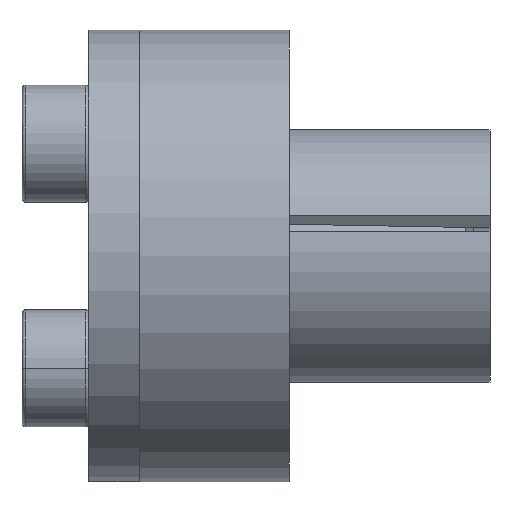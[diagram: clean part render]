
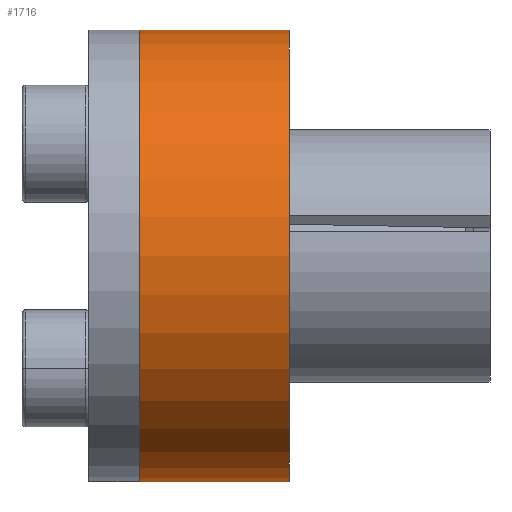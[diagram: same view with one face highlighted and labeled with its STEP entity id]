
A CAD part, front view. The second image highlights one B-rep face of the part: STEP entity #1716.
In plain terms, the highlighted cylindrical face has radius 13.5 mm (diameter 27 mm), a partial arc.
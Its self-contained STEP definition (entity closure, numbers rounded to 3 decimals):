
#387 = DIRECTION ( 'NONE',  ( -1., 0., 0. ) ) ;
#389 = VECTOR ( 'NONE', #3749, 1000. ) ;
#424 = EDGE_CURVE ( 'NONE', #3860, #1566, #490, .T. ) ;
#490 = LINE ( 'NONE', #2184, #389 ) ;
#496 = DIRECTION ( 'NONE',  ( 0., 0., 1. ) ) ;
#551 = DIRECTION ( 'NONE',  ( -1., 0., 0. ) ) ;
#563 = ORIENTED_EDGE ( 'NONE', *, *, #2584, .F. ) ;
#617 = DIRECTION ( 'NONE',  ( -1., 0., 0. ) ) ;
#947 = ORIENTED_EDGE ( 'NONE', *, *, #424, .T. ) ;
#1566 = VERTEX_POINT ( 'NONE', #2976 ) ;
#1716 = ADVANCED_FACE ( 'NONE', ( #2012 ), #1898, .T. ) ;
#1898 = CYLINDRICAL_SURFACE ( 'NONE', #3057, 13.5 ) ;
#1923 = DIRECTION ( 'NONE',  ( 0., 0., 1. ) ) ;
#2012 = FACE_OUTER_BOUND ( 'NONE', #2319, .T. ) ;
#2029 = CARTESIAN_POINT ( 'NONE',  ( 0.803, 0., 13.5 ) ) ;
#2156 = CARTESIAN_POINT ( 'NONE',  ( -8.178, 0., -13.5 ) ) ;
#2164 = EDGE_CURVE ( 'NONE', #2372, #3860, #3728, .T. ) ;
#2184 = CARTESIAN_POINT ( 'NONE',  ( -13.878, 0., 13.5 ) ) ;
#2319 = EDGE_LOOP ( 'NONE', ( #4045, #2989, #947, #563 ) ) ;
#2364 = AXIS2_PLACEMENT_3D ( 'NONE', #4041, #387, #1923 ) ;
#2372 = VERTEX_POINT ( 'NONE', #3189 ) ;
#2497 = DIRECTION ( 'NONE',  ( 0., 0., 1. ) ) ;
#2584 = EDGE_CURVE ( 'NONE', #3056, #1566, #3935, .T. ) ;
#2588 = EDGE_CURVE ( 'NONE', #2372, #3056, #3305, .T. ) ;
#2785 = CARTESIAN_POINT ( 'NONE',  ( -13.878, 0., 0. ) ) ;
#2893 = CARTESIAN_POINT ( 'NONE',  ( 0.803, 0., 0. ) ) ;
#2931 = AXIS2_PLACEMENT_3D ( 'NONE', #2893, #617, #2497 ) ;
#2976 = CARTESIAN_POINT ( 'NONE',  ( -8.178, 0., 13.5 ) ) ;
#2989 = ORIENTED_EDGE ( 'NONE', *, *, #2164, .T. ) ;
#3056 = VERTEX_POINT ( 'NONE', #2156 ) ;
#3057 = AXIS2_PLACEMENT_3D ( 'NONE', #2785, #551, #496 ) ;
#3125 = CARTESIAN_POINT ( 'NONE',  ( -13.878, 0., -13.5 ) ) ;
#3189 = CARTESIAN_POINT ( 'NONE',  ( 0.803, 0., -13.5 ) ) ;
#3305 = LINE ( 'NONE', #3125, #4031 ) ;
#3423 = DIRECTION ( 'NONE',  ( -1., 0., 0. ) ) ;
#3728 = CIRCLE ( 'NONE', #2931, 13.5 ) ;
#3749 = DIRECTION ( 'NONE',  ( -1., 0., 0. ) ) ;
#3860 = VERTEX_POINT ( 'NONE', #2029 ) ;
#3935 = CIRCLE ( 'NONE', #2364, 13.5 ) ;
#4031 = VECTOR ( 'NONE', #3423, 1000. ) ;
#4041 = CARTESIAN_POINT ( 'NONE',  ( -8.178, 0., 0. ) ) ;
#4045 = ORIENTED_EDGE ( 'NONE', *, *, #2588, .F. ) ;
